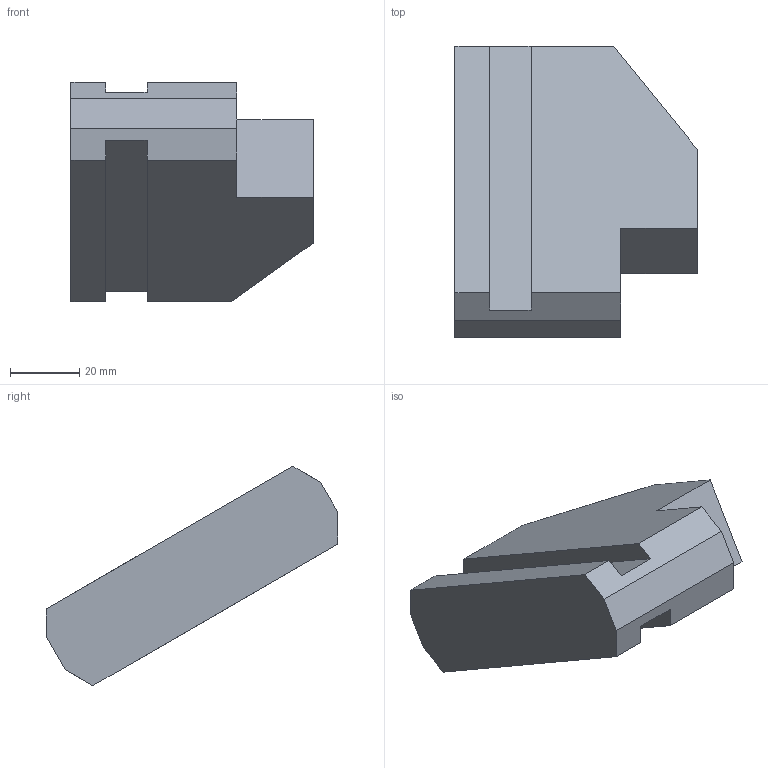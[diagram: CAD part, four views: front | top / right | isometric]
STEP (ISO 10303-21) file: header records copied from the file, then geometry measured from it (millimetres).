
FILE_DESCRIPTION(('CATIA V5 STEP Exchange'),'2;1');
FILE_NAME('D:\Clients_NCS8\Cenit-AG\Import\OKUMA250\C1-M2.stp','2005-03-09T16:51:13+00:00',('none'),('none'),'CATIA Version 5 Release 14 (IN-10)','CATIA V5 STEP AP203','none');
FILE_SCHEMA(('CONFIG_CONTROL_DESIGN'));
Length unit declared in the file: millimetre
Products named in the file (2): okuma_dr-fr; FORKART_FNC315
Assembly tree (2 placements, depth 3):
  okuma_dr-fr
    FORKART_FNC315
      #62
Bounding box: 70 x 84.34 x 63.4 mm (x, y, z)
Volume: 123882.3 mm3; surface area: 19284.7 mm2
Topology: 1 solids, 1 shells, 21 faces, 57 edges, 38 vertices
Faces by surface type: plane 21
Entity records: 714 total; most frequent: CARTESIAN_POINT 116, ORIENTED_EDGE 114, DIRECTION 99, VECTOR 57, EDGE_CURVE 57, LINE 57, VERTEX_POINT 38, AXIS2_PLACEMENT_3D 21
